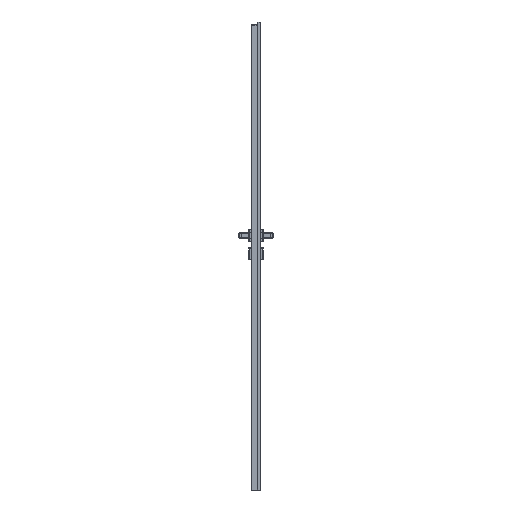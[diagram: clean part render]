
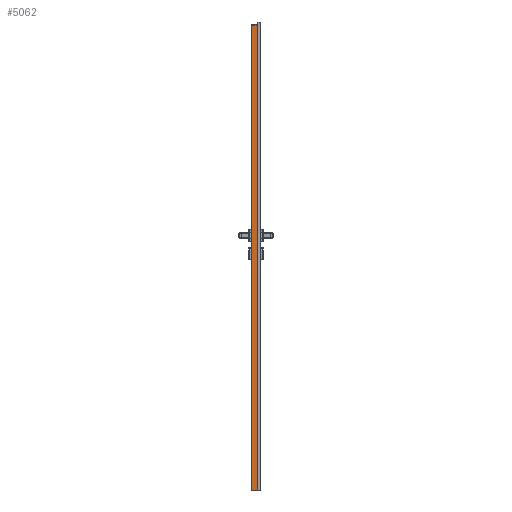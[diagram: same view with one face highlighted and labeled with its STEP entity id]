
A CAD part, left-side view. The second image highlights one B-rep face of the part: STEP entity #5062.
In plain terms, the highlighted planar face has unit normal (-1, 0, 0).
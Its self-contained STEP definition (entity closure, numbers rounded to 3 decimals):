
#2772=FACE_OUTER_BOUND('',#10297,.T.);
#5062=ADVANCED_FACE('',(#2772),#6970,.F.);
#6970=PLANE('',#40918);
#8491=CIRCLE('',#40910,1.5);
#10297=EDGE_LOOP('',(#15037,#15038,#15039,#15040,#15041));
#15037=ORIENTED_EDGE('',*,*,#28624,.T.);
#15038=ORIENTED_EDGE('',*,*,#28638,.T.);
#15039=ORIENTED_EDGE('',*,*,#28636,.T.);
#15040=ORIENTED_EDGE('',*,*,#28473,.T.);
#15041=ORIENTED_EDGE('',*,*,#28639,.F.);
#24280=VERTEX_POINT('',#62376);
#24281=VERTEX_POINT('',#62378);
#24362=VERTEX_POINT('',#62720);
#24363=VERTEX_POINT('',#62722);
#24371=VERTEX_POINT('',#62794);
#28473=EDGE_CURVE('',#24281,#24280,#33428,.T.);
#28624=EDGE_CURVE('',#24363,#24362,#8491,.T.);
#28636=EDGE_CURVE('',#24371,#24281,#33553,.T.);
#28638=EDGE_CURVE('',#24362,#24371,#33554,.T.);
#28639=EDGE_CURVE('',#24363,#24280,#33555,.T.);
#33428=LINE('',#62377,#36983);
#33553=LINE('',#62793,#37108);
#33554=LINE('',#62797,#37109);
#33555=LINE('',#62798,#37110);
#36983=VECTOR('',#46260,1.);
#37108=VECTOR('',#46573,1.);
#37109=VECTOR('',#46578,1.);
#37110=VECTOR('',#46579,1.);
#40910=AXIS2_PLACEMENT_3D('',#62721,#46554,#46555);
#40918=AXIS2_PLACEMENT_3D('',#62799,#46580,#46581);
#46260=DIRECTION('',(0.,-1.,0.));
#46554=DIRECTION('',(1.,0.,0.));
#46555=DIRECTION('',(0.,0.,-1.));
#46573=DIRECTION('',(0.,0.,-1.));
#46578=DIRECTION('',(0.,1.,0.));
#46579=DIRECTION('',(0.,0.,-1.));
#46580=DIRECTION('',(1.,0.,0.));
#46581=DIRECTION('',(0.,0.,-1.));
#62376=CARTESIAN_POINT('',(-309.,-24.65,0.));
#62377=CARTESIAN_POINT('',(-309.,-24.65,0.));
#62378=CARTESIAN_POINT('',(-309.,-1.65,0.));
#62720=CARTESIAN_POINT('',(-309.,-24.2,2017.));
#62721=CARTESIAN_POINT('',(-309.,-24.2,2018.5));
#62722=CARTESIAN_POINT('',(-309.,-24.65,2017.069));
#62793=CARTESIAN_POINT('',(-309.,-1.65,0.));
#62794=CARTESIAN_POINT('',(-309.,-1.65,2017.));
#62797=CARTESIAN_POINT('',(-309.,-24.65,2017.));
#62798=CARTESIAN_POINT('',(-309.,-24.65,0.));
#62799=CARTESIAN_POINT('',(-309.,-24.65,0.));
